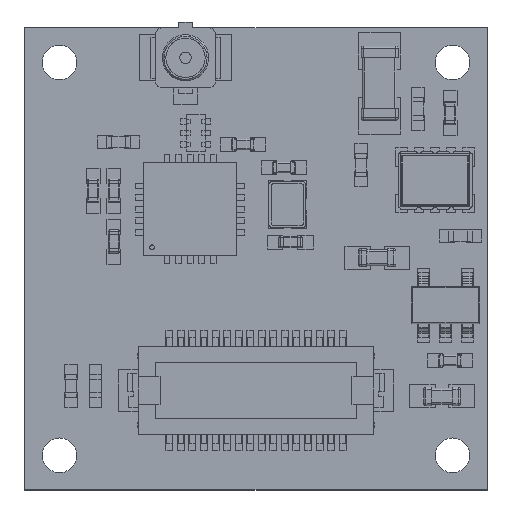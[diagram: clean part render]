
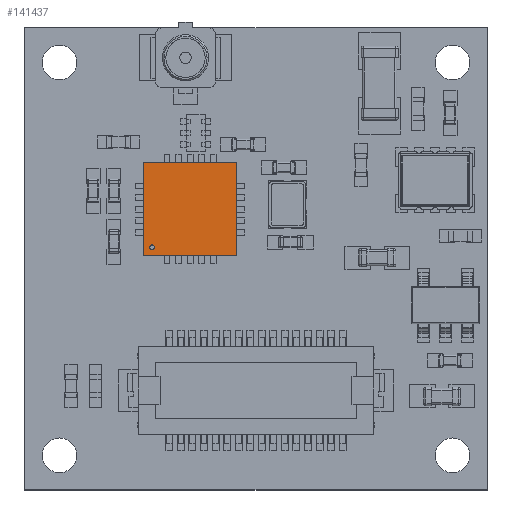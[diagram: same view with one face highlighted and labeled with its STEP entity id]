
A CAD part, top view. The second image highlights one B-rep face of the part: STEP entity #141437.
In plain terms, the highlighted planar face has unit normal (0, 0, 1).
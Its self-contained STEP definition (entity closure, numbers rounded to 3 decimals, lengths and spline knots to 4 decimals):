
#141437 = ADVANCED_FACE('',(#141438,#141557),#141452,.F.);
#141438 = FACE_BOUND('',#141439,.F.);
#141439 = EDGE_LOOP('',(#141440,#141475,#141503,#141531));
#141440 = ORIENTED_EDGE('',*,*,#141441,.T.);
#141441 = EDGE_CURVE('',#141442,#141444,#141446,.T.);
#141442 = VERTEX_POINT('',#141443);
#141443 = CARTESIAN_POINT('',(15.15,20.15,1.45));
#141444 = VERTEX_POINT('',#141445);
#141445 = CARTESIAN_POINT('',(15.15,24.15,1.45));
#141446 = SURFACE_CURVE('',#141447,(#141451,#141463),.PCURVE_S1.);
#141447 = LINE('',#141448,#141449);
#141448 = CARTESIAN_POINT('',(15.15,20.15,1.45));
#141449 = VECTOR('',#141450,1.);
#141450 = DIRECTION('',(0.,1.,0.));
#141451 = PCURVE('',#141452,#141457);
#141452 = PLANE('',#141453);
#141453 = AXIS2_PLACEMENT_3D('',#141454,#141455,#141456);
#141454 = CARTESIAN_POINT('',(17.15,22.15,1.45));
#141455 = DIRECTION('',(0.,-0.,-1.));
#141456 = DIRECTION('',(0.,-1.,0.));
#141457 = DEFINITIONAL_REPRESENTATION('',(#141458),#141462);
#141458 = LINE('',#141459,#141460);
#141459 = CARTESIAN_POINT('',(2.,2.));
#141460 = VECTOR('',#141461,1.);
#141461 = DIRECTION('',(-1.,0.));
#141462 = ( GEOMETRIC_REPRESENTATION_CONTEXT(2) 
PARAMETRIC_REPRESENTATION_CONTEXT() REPRESENTATION_CONTEXT('2D SPACE',''
  ) );
#141463 = PCURVE('',#141464,#141469);
#141464 = PLANE('',#141465);
#141465 = AXIS2_PLACEMENT_3D('',#141466,#141467,#141468);
#141466 = CARTESIAN_POINT('',(15.15,22.15,1.0238));
#141467 = DIRECTION('',(-1.,0.,0.));
#141468 = DIRECTION('',(0.,0.,1.));
#141469 = DEFINITIONAL_REPRESENTATION('',(#141470),#141474);
#141470 = LINE('',#141471,#141472);
#141471 = CARTESIAN_POINT('',(0.426,-2.));
#141472 = VECTOR('',#141473,1.);
#141473 = DIRECTION('',(0.,1.));
#141474 = ( GEOMETRIC_REPRESENTATION_CONTEXT(2) 
PARAMETRIC_REPRESENTATION_CONTEXT() REPRESENTATION_CONTEXT('2D SPACE',''
  ) );
#141475 = ORIENTED_EDGE('',*,*,#141476,.T.);
#141476 = EDGE_CURVE('',#141444,#141477,#141479,.T.);
#141477 = VERTEX_POINT('',#141478);
#141478 = CARTESIAN_POINT('',(19.15,24.15,1.45));
#141479 = SURFACE_CURVE('',#141480,(#141484,#141491),.PCURVE_S1.);
#141480 = LINE('',#141481,#141482);
#141481 = CARTESIAN_POINT('',(15.15,24.15,1.45));
#141482 = VECTOR('',#141483,1.);
#141483 = DIRECTION('',(1.,0.,0.));
#141484 = PCURVE('',#141452,#141485);
#141485 = DEFINITIONAL_REPRESENTATION('',(#141486),#141490);
#141486 = LINE('',#141487,#141488);
#141487 = CARTESIAN_POINT('',(-2.,2.));
#141488 = VECTOR('',#141489,1.);
#141489 = DIRECTION('',(0.,-1.));
#141490 = ( GEOMETRIC_REPRESENTATION_CONTEXT(2) 
PARAMETRIC_REPRESENTATION_CONTEXT() REPRESENTATION_CONTEXT('2D SPACE',''
  ) );
#141491 = PCURVE('',#141492,#141497);
#141492 = PLANE('',#141493);
#141493 = AXIS2_PLACEMENT_3D('',#141494,#141495,#141496);
#141494 = CARTESIAN_POINT('',(17.15,24.15,1.0238));
#141495 = DIRECTION('',(0.,1.,0.));
#141496 = DIRECTION('',(0.,0.,1.));
#141497 = DEFINITIONAL_REPRESENTATION('',(#141498),#141502);
#141498 = LINE('',#141499,#141500);
#141499 = CARTESIAN_POINT('',(0.426,-2.));
#141500 = VECTOR('',#141501,1.);
#141501 = DIRECTION('',(0.,1.));
#141502 = ( GEOMETRIC_REPRESENTATION_CONTEXT(2) 
PARAMETRIC_REPRESENTATION_CONTEXT() REPRESENTATION_CONTEXT('2D SPACE',''
  ) );
#141503 = ORIENTED_EDGE('',*,*,#141504,.T.);
#141504 = EDGE_CURVE('',#141477,#141505,#141507,.T.);
#141505 = VERTEX_POINT('',#141506);
#141506 = CARTESIAN_POINT('',(19.15,20.15,1.45));
#141507 = SURFACE_CURVE('',#141508,(#141512,#141519),.PCURVE_S1.);
#141508 = LINE('',#141509,#141510);
#141509 = CARTESIAN_POINT('',(19.15,24.15,1.45));
#141510 = VECTOR('',#141511,1.);
#141511 = DIRECTION('',(0.,-1.,0.));
#141512 = PCURVE('',#141452,#141513);
#141513 = DEFINITIONAL_REPRESENTATION('',(#141514),#141518);
#141514 = LINE('',#141515,#141516);
#141515 = CARTESIAN_POINT('',(-2.,-2.));
#141516 = VECTOR('',#141517,1.);
#141517 = DIRECTION('',(1.,0.));
#141518 = ( GEOMETRIC_REPRESENTATION_CONTEXT(2) 
PARAMETRIC_REPRESENTATION_CONTEXT() REPRESENTATION_CONTEXT('2D SPACE',''
  ) );
#141519 = PCURVE('',#141520,#141525);
#141520 = PLANE('',#141521);
#141521 = AXIS2_PLACEMENT_3D('',#141522,#141523,#141524);
#141522 = CARTESIAN_POINT('',(19.15,22.15,1.0238));
#141523 = DIRECTION('',(1.,0.,0.));
#141524 = DIRECTION('',(0.,-1.,0.));
#141525 = DEFINITIONAL_REPRESENTATION('',(#141526),#141530);
#141526 = LINE('',#141527,#141528);
#141527 = CARTESIAN_POINT('',(-2.,-0.426));
#141528 = VECTOR('',#141529,1.);
#141529 = DIRECTION('',(1.,0.));
#141530 = ( GEOMETRIC_REPRESENTATION_CONTEXT(2) 
PARAMETRIC_REPRESENTATION_CONTEXT() REPRESENTATION_CONTEXT('2D SPACE',''
  ) );
#141531 = ORIENTED_EDGE('',*,*,#141532,.T.);
#141532 = EDGE_CURVE('',#141505,#141442,#141533,.T.);
#141533 = SURFACE_CURVE('',#141534,(#141538,#141545),.PCURVE_S1.);
#141534 = LINE('',#141535,#141536);
#141535 = CARTESIAN_POINT('',(19.15,20.15,1.45));
#141536 = VECTOR('',#141537,1.);
#141537 = DIRECTION('',(-1.,0.,0.));
#141538 = PCURVE('',#141452,#141539);
#141539 = DEFINITIONAL_REPRESENTATION('',(#141540),#141544);
#141540 = LINE('',#141541,#141542);
#141541 = CARTESIAN_POINT('',(2.,-2.));
#141542 = VECTOR('',#141543,1.);
#141543 = DIRECTION('',(0.,1.));
#141544 = ( GEOMETRIC_REPRESENTATION_CONTEXT(2) 
PARAMETRIC_REPRESENTATION_CONTEXT() REPRESENTATION_CONTEXT('2D SPACE',''
  ) );
#141545 = PCURVE('',#141546,#141551);
#141546 = PLANE('',#141547);
#141547 = AXIS2_PLACEMENT_3D('',#141548,#141549,#141550);
#141548 = CARTESIAN_POINT('',(17.15,20.15,1.0238));
#141549 = DIRECTION('',(0.,-1.,-0.));
#141550 = DIRECTION('',(0.,0.,-1.));
#141551 = DEFINITIONAL_REPRESENTATION('',(#141552),#141556);
#141552 = LINE('',#141553,#141554);
#141553 = CARTESIAN_POINT('',(-0.426,2.));
#141554 = VECTOR('',#141555,1.);
#141555 = DIRECTION('',(0.,-1.));
#141556 = ( GEOMETRIC_REPRESENTATION_CONTEXT(2) 
PARAMETRIC_REPRESENTATION_CONTEXT() REPRESENTATION_CONTEXT('2D SPACE',''
  ) );
#141557 = FACE_BOUND('',#141558,.F.);
#141558 = EDGE_LOOP('',(#141559));
#141559 = ORIENTED_EDGE('',*,*,#141560,.T.);
#141560 = EDGE_CURVE('',#141561,#141561,#141563,.T.);
#141561 = VERTEX_POINT('',#141562);
#141562 = CARTESIAN_POINT('',(15.5036,20.6036,1.45));
#141563 = SURFACE_CURVE('',#141564,(#141569,#141580),.PCURVE_S1.);
#141564 = CIRCLE('',#141565,0.1);
#141565 = AXIS2_PLACEMENT_3D('',#141566,#141567,#141568);
#141566 = CARTESIAN_POINT('',(15.5036,20.5036,1.45));
#141567 = DIRECTION('',(0.,-0.,1.));
#141568 = DIRECTION('',(0.,1.,0.));
#141569 = PCURVE('',#141452,#141570);
#141570 = DEFINITIONAL_REPRESENTATION('',(#141571),#141579);
#141571 = ( BOUNDED_CURVE() B_SPLINE_CURVE(2,(#141572,#141573,#141574,
    #141575,#141576,#141577,#141578),.UNSPECIFIED.,.T.,.F.) 
B_SPLINE_CURVE_WITH_KNOTS((1,2,2,2,2,1),(-2.0944,0.,
    2.0944,4.1888,6.2832,8.3776),
.UNSPECIFIED.) CURVE() GEOMETRIC_REPRESENTATION_ITEM() 
RATIONAL_B_SPLINE_CURVE((1.,0.5,1.,0.5,1.,0.5,1.)) REPRESENTATION_ITEM(
  '') );
#141572 = CARTESIAN_POINT('',(1.546,1.646));
#141573 = CARTESIAN_POINT('',(1.546,1.82));
#141574 = CARTESIAN_POINT('',(1.696,1.733));
#141575 = CARTESIAN_POINT('',(1.846,1.646));
#141576 = CARTESIAN_POINT('',(1.696,1.56));
#141577 = CARTESIAN_POINT('',(1.546,1.473));
#141578 = CARTESIAN_POINT('',(1.546,1.646));
#141579 = ( GEOMETRIC_REPRESENTATION_CONTEXT(2) 
PARAMETRIC_REPRESENTATION_CONTEXT() REPRESENTATION_CONTEXT('2D SPACE',''
  ) );
#141580 = PCURVE('',#141581,#141586);
#141581 = PLANE('',#141582);
#141582 = AXIS2_PLACEMENT_3D('',#141583,#141584,#141585);
#141583 = CARTESIAN_POINT('',(17.15,22.15,1.45));
#141584 = DIRECTION('',(0.,-0.,-1.));
#141585 = DIRECTION('',(0.,-1.,0.));
#141586 = DEFINITIONAL_REPRESENTATION('',(#141587),#141595);
#141587 = ( BOUNDED_CURVE() B_SPLINE_CURVE(2,(#141588,#141589,#141590,
    #141591,#141592,#141593,#141594),.UNSPECIFIED.,.T.,.F.) 
B_SPLINE_CURVE_WITH_KNOTS((1,2,2,2,2,1),(-2.0944,0.,
    2.0944,4.1888,6.2832,8.3776),
.UNSPECIFIED.) CURVE() GEOMETRIC_REPRESENTATION_ITEM() 
RATIONAL_B_SPLINE_CURVE((1.,0.5,1.,0.5,1.,0.5,1.)) REPRESENTATION_ITEM(
  '') );
#141588 = CARTESIAN_POINT('',(1.546,1.646));
#141589 = CARTESIAN_POINT('',(1.546,1.82));
#141590 = CARTESIAN_POINT('',(1.696,1.733));
#141591 = CARTESIAN_POINT('',(1.846,1.646));
#141592 = CARTESIAN_POINT('',(1.696,1.56));
#141593 = CARTESIAN_POINT('',(1.546,1.473));
#141594 = CARTESIAN_POINT('',(1.546,1.646));
#141595 = ( GEOMETRIC_REPRESENTATION_CONTEXT(2) 
PARAMETRIC_REPRESENTATION_CONTEXT() REPRESENTATION_CONTEXT('2D SPACE',''
  ) );
